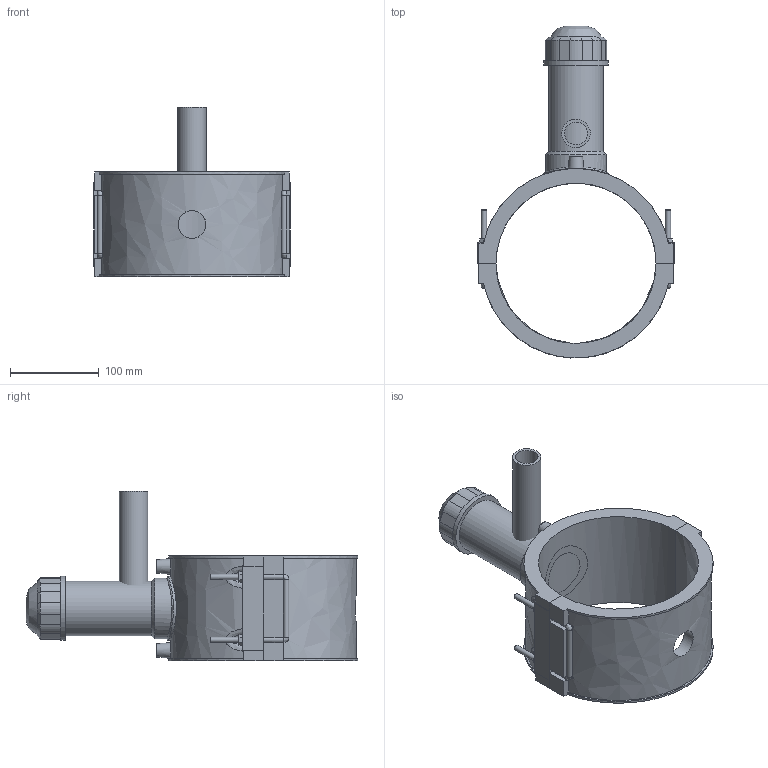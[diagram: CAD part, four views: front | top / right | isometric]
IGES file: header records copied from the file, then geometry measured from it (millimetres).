
Global section: file name: 4963P4180032; native system: Autodesk Inventor 2019; preprocessor: unknown; author: KIM; date: 20220317.113051; units: millimetre
Bounding box: 221 x 373.32 x 191 mm (x, y, z)
Volume: 1459525.1 mm3; surface area: 279438.9 mm2
Topology: 3 solids, 5 shells, 193 faces, 492 edges, 316 vertices
Faces by surface type: bspline 193
